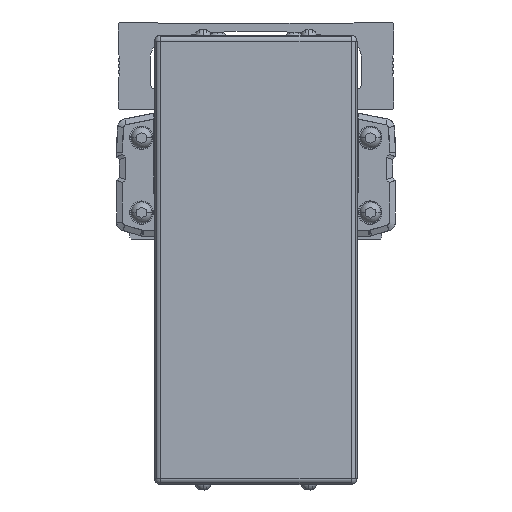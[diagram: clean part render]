
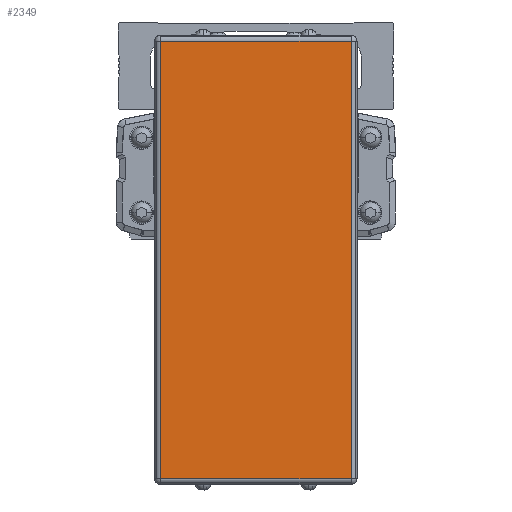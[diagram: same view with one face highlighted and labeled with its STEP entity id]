
A CAD part, front view. The second image highlights one B-rep face of the part: STEP entity #2349.
In plain terms, the highlighted planar face has unit normal (0, -1, 0).
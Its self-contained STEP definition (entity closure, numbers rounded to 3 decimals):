
#2349=ADVANCED_FACE('',(#6425),#6426,.T.);
#6425=FACE_OUTER_BOUND('',#12572,.T.);
#6426=PLANE('',#12573);
#12572=EDGE_LOOP('',(#20567,#20568,#20569,#20570));
#12573=AXIS2_PLACEMENT_3D('',#20571,#20572,#20573);
#20567=ORIENTED_EDGE('',*,*,#38087,.F.);
#20568=ORIENTED_EDGE('',*,*,#38088,.F.);
#20569=ORIENTED_EDGE('',*,*,#38089,.F.);
#20570=ORIENTED_EDGE('',*,*,#38090,.F.);
#20571=CARTESIAN_POINT('',(0.,60.222,-50.1));
#20572=DIRECTION('',(0.0,-1.0,0.));
#20573=DIRECTION('',(1.0,0.0,0.0));
#38087=EDGE_CURVE('',#45454,#45455,#45456,.T.);
#38088=EDGE_CURVE('',#45457,#45454,#45458,.T.);
#38089=EDGE_CURVE('',#45459,#45457,#45460,.T.);
#38090=EDGE_CURVE('',#45455,#45459,#45461,.T.);
#45454=VERTEX_POINT('',#56007);
#45455=VERTEX_POINT('',#56008);
#45456=LINE('',#56009,#56010);
#45457=VERTEX_POINT('',#56011);
#45458=LINE('',#56012,#56013);
#45459=VERTEX_POINT('',#56014);
#45460=LINE('',#56015,#56016);
#45461=LINE('',#56017,#56018);
#56007=CARTESIAN_POINT('',(32.5,60.222,24.5));
#56008=CARTESIAN_POINT('',(32.5,60.222,-124.7));
#56009=CARTESIAN_POINT('',(32.5,60.222,-50.1));
#56010=VECTOR('',#70818,10.0);
#56011=CARTESIAN_POINT('',(-32.5,60.222,24.5));
#56012=CARTESIAN_POINT('',(0.,60.222,24.5));
#56013=VECTOR('',#70819,10.0);
#56014=CARTESIAN_POINT('',(-32.5,60.222,-124.7));
#56015=CARTESIAN_POINT('',(-32.5,60.222,-50.1));
#56016=VECTOR('',#70820,10.0);
#56017=CARTESIAN_POINT('',(0.,60.222,-124.7));
#56018=VECTOR('',#70821,10.0);
#70818=DIRECTION('',(0.0,0.,-1.0));
#70819=DIRECTION('',(1.0,0.0,0.0));
#70820=DIRECTION('',(0.0,0.,1.0));
#70821=DIRECTION('',(-1.0,0.0,0.0));
